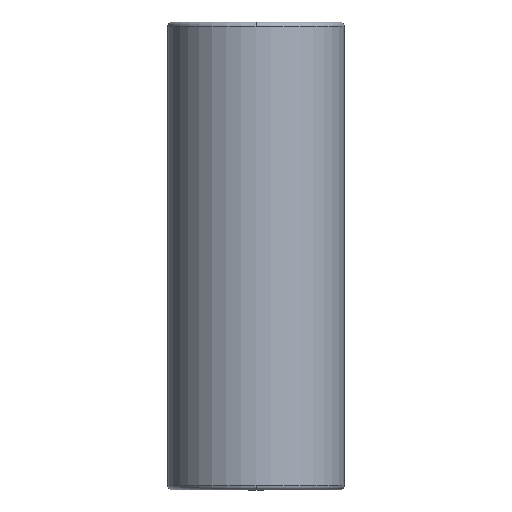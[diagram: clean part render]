
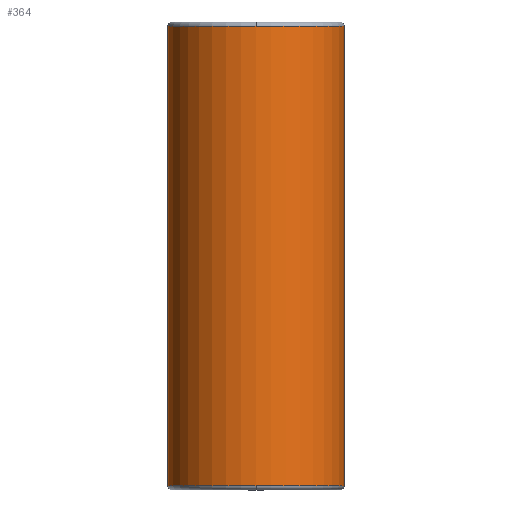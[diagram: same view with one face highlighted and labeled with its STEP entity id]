
A CAD part, front view. The second image highlights one B-rep face of the part: STEP entity #364.
In plain terms, the highlighted cylindrical face has radius 40.492 mm (diameter 80.984 mm), a partial arc.
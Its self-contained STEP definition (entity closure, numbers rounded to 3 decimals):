
#269=CARTESIAN_POINT('',(0.0,-40.492,213.0));
#270=VERTEX_POINT('',#269);
#296=CARTESIAN_POINT('',(-40.492,0.,213.0));
#297=VERTEX_POINT('',#296);
#305=CARTESIAN_POINT('',(0.0,0.,213.0));
#306=DIRECTION('',(0.0,0.0,1.0));
#307=DIRECTION('',(1.0,0.0,0.0));
#308=AXIS2_PLACEMENT_3D('',#305,#306,#307);
#309=CIRCLE('',#308,40.492);
#310=EDGE_CURVE('',#297,#270,#309,.T.);
#315=CARTESIAN_POINT('',(0.0,0.,107.5));
#316=DIRECTION('',(0.0,0.,1.0));
#317=DIRECTION('',(1.0,0.0,0.0));
#318=AXIS2_PLACEMENT_3D('',#315,#316,#317);
#319=CYLINDRICAL_SURFACE('',#318,40.492);
#320=CARTESIAN_POINT('',(40.492,0.,213.0));
#321=VERTEX_POINT('',#320);
#322=CARTESIAN_POINT('',(40.492,0.,2.));
#323=VERTEX_POINT('',#322);
#324=CARTESIAN_POINT('',(40.492,0.,213.0));
#325=DIRECTION('',(0.0,0.0,-1.0));
#326=VECTOR('',#325,211.0);
#327=LINE('',#324,#326);
#328=EDGE_CURVE('',#321,#323,#327,.T.);
#329=ORIENTED_EDGE('',*,*,#328,.F.);
#330=CARTESIAN_POINT('',(0.0,0.,213.0));
#331=DIRECTION('',(0.0,0.0,1.0));
#332=DIRECTION('',(1.0,0.0,0.0));
#333=AXIS2_PLACEMENT_3D('',#330,#331,#332);
#334=CIRCLE('',#333,40.492);
#335=EDGE_CURVE('',#270,#321,#334,.T.);
#336=ORIENTED_EDGE('',*,*,#335,.F.);
#337=ORIENTED_EDGE('',*,*,#310,.F.);
#338=CARTESIAN_POINT('',(-40.492,0.,2.));
#339=VERTEX_POINT('',#338);
#340=CARTESIAN_POINT('',(-40.492,0.,213.0));
#341=DIRECTION('',(0.0,0.0,-1.0));
#342=VECTOR('',#341,211.0);
#343=LINE('',#340,#342);
#344=EDGE_CURVE('',#297,#339,#343,.T.);
#345=ORIENTED_EDGE('',*,*,#344,.T.);
#346=CARTESIAN_POINT('',(0.0,-40.492,2.));
#347=VERTEX_POINT('',#346);
#348=CARTESIAN_POINT('',(0.0,0.,2.0));
#349=DIRECTION('',(0.0,0.0,1.0));
#350=DIRECTION('',(1.0,0.0,0.0));
#351=AXIS2_PLACEMENT_3D('',#348,#349,#350);
#352=CIRCLE('',#351,40.492);
#353=EDGE_CURVE('',#339,#347,#352,.T.);
#354=ORIENTED_EDGE('',*,*,#353,.T.);
#355=CARTESIAN_POINT('',(0.0,0.,2.0));
#356=DIRECTION('',(0.0,0.0,1.0));
#357=DIRECTION('',(1.0,0.0,0.0));
#358=AXIS2_PLACEMENT_3D('',#355,#356,#357);
#359=CIRCLE('',#358,40.492);
#360=EDGE_CURVE('',#347,#323,#359,.T.);
#361=ORIENTED_EDGE('',*,*,#360,.T.);
#362=EDGE_LOOP('',(#329,#336,#337,#345,#354,#361));
#363=FACE_OUTER_BOUND('',#362,.T.);
#364=ADVANCED_FACE('',(#363),#319,.T.);
